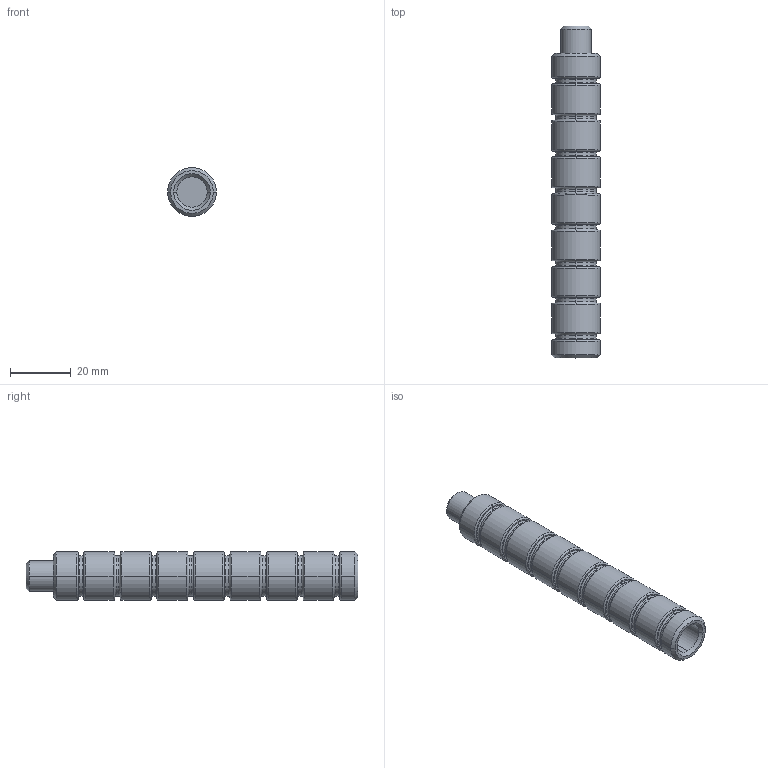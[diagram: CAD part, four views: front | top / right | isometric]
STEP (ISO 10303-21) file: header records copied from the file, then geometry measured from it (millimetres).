
FILE_DESCRIPTION (( 'STEP AP203' ), '1' );
FILE_NAME ('160649.2.step', '2014-08-11T16:18:37', ( 'User' ), ( '' ), 'SwSTEP 2.0', 'SolidWorks 2014', '' );
FILE_SCHEMA (( 'CONFIG_CONTROL_DESIGN' ));
Length unit declared in the file: millimetre
Products named in the file (2): 160649.2; 160649.2 Prismaverlängerung^160649.2_Detailliert
Assembly tree (1 placements, depth 2):
  160649.2
    160649.2 Prismaverlängerung^160649.2_Detailliert
Bounding box: 16 x 109 x 16 mm (x, y, z)
Volume: 18573 mm3; surface area: 6663.1 mm2
Topology: 1 solids, 1 shells, 130 faces, 292 edges, 182 vertices
Faces by surface type: torus 64, cylinder 38, plane 20, cone 8
Entity records: 3934 total; most frequent: DIRECTION 806, CARTESIAN_POINT 608, ORIENTED_EDGE 584, AXIS2_PLACEMENT_3D 380, EDGE_CURVE 292, CIRCLE 246, VERTEX_POINT 182, EDGE_LOOP 148
